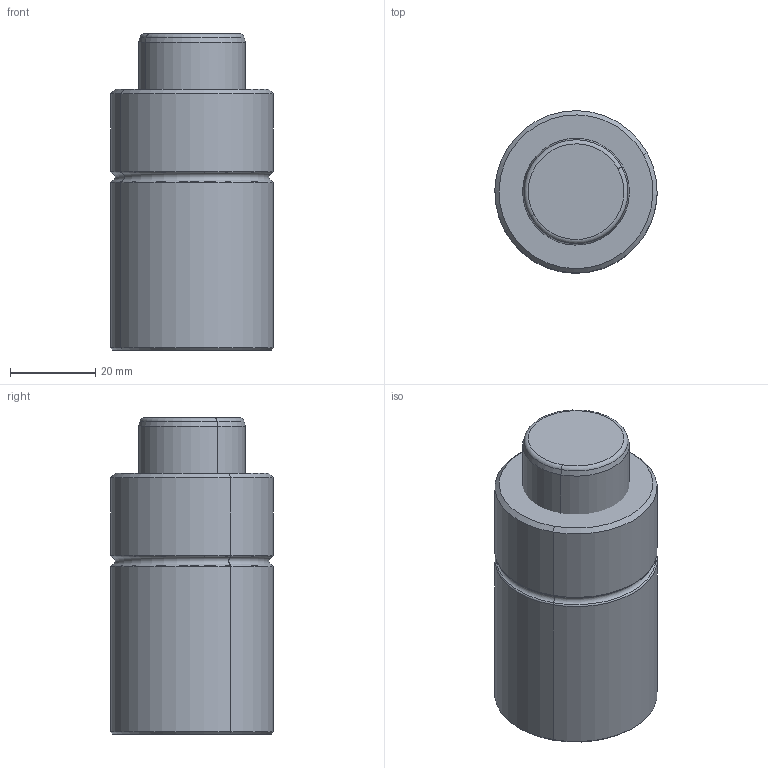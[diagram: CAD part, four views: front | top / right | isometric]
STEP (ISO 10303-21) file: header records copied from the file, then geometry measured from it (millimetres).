
FILE_DESCRIPTION(('CATIA V5 STEP Exchange'),'2;1');
FILE_NAME('W:\CATALOGO GENERAL 2018\FICHEROS CAD\003-TPH\TPH 850\TPH 850x12.stp','2017-10-30T09:13:14+00:00',('none'),('none'),'CATIA Version 5 Release 17 (IN-10)','CATIA V5 STEP AP203','none');
FILE_SCHEMA(('CONFIG_CONTROL_DESIGN'));
Length unit declared in the file: millimetre
Products named in the file (1): TPH 850x12
Assembly tree (2 placements, depth 2):
  TPH 850x12
    #56
    #489
Bounding box: 37.99 x 37.99 x 74 mm (x, y, z)
Volume: 95042.9 mm3; surface area: 15736.6 mm2
Topology: 2 solids, 2 shells, 47 faces, 90 edges, 52 vertices
Faces by surface type: cylinder 16, torus 14, plane 9, cone 8
Entity records: 1117 total; most frequent: ORIENTED_EDGE 180, CARTESIAN_POINT 173, DIRECTION 152, AXIS2_PLACEMENT_3D 97, EDGE_CURVE 90, CIRCLE 66, EDGE_LOOP 52, VERTEX_POINT 52
